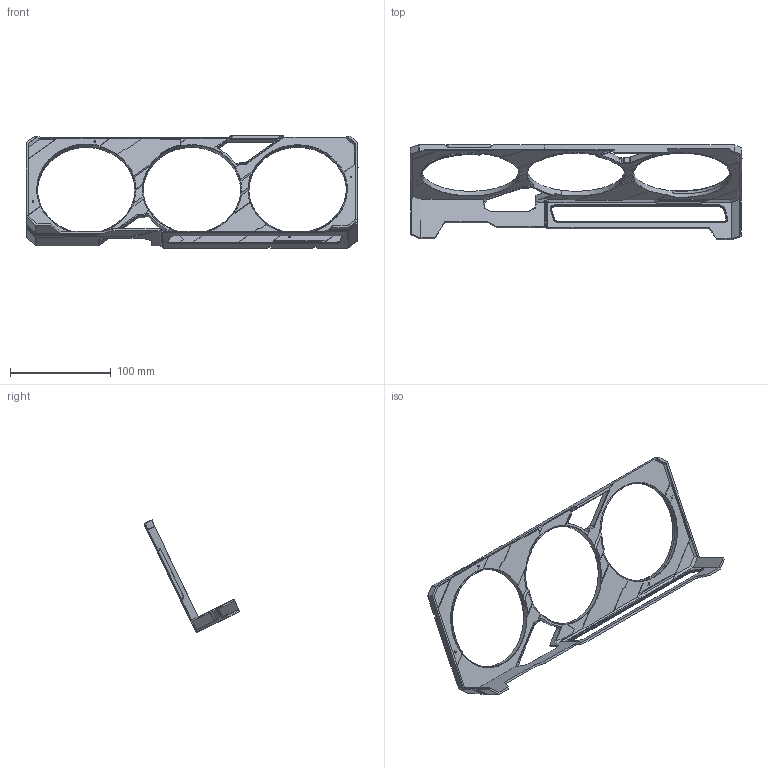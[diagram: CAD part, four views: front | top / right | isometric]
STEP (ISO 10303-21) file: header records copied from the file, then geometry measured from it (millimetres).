
FILE_DESCRIPTION((''),'2;1');
FILE_NAME('20221027_MAKER_FLAT_ALL_ASM','2022-10-27T11:17:23',('Kate'),(''),'CREO PARAMETRIC BY PTC INC, 2020281','CREO PARAMETRIC BY PTC INC, 2020281','');
FILE_SCHEMA(('AUTOMOTIVE_DESIGN { 1 0 10303 214 1 1 1 1 }'));
Length unit declared in the file: millimetre
Products named in the file (9): C02_183; 0000-D325-3_8HP_ASM_1_ASM_120_ASM; 20221027_MAKER_FLAT_01_ASM; C02_183_1; 0000-D325-3_8HP_ASM_1_ASM_120_1_ASM; 20221027_MAKER_FLAT_02_ASM; 20221027_MAKER_SMALLCOVER_01; 20221027_MAKER_SMALLCOVER_02; 20221027_MAKER_FLAT_ALL_ASM
Assembly tree (8 placements, depth 4):
  20221027_MAKER_FLAT_ALL_ASM
    20221027_MAKER_FLAT_01_ASM
      0000-D325-3_8HP_ASM_1_ASM_120_ASM
        C02_183
    20221027_MAKER_FLAT_02_ASM
      0000-D325-3_8HP_ASM_1_ASM_120_1_ASM
        C02_183_1
    20221027_MAKER_SMALLCOVER_01
    20221027_MAKER_SMALLCOVER_02
Bounding box: 330 x 94.93 x 111.6 mm (x, y, z)
Volume: 87284.1 mm3; surface area: 70006.7 mm2
Topology: 4 solids, 4 shells, 518 faces, 1550 edges, 1036 vertices
Faces by surface type: plane 302, cylinder 114, cone 42, torus 34, extrusion 13, bspline 7, revolution 6
Entity records: 19409 total; most frequent: CARTESIAN_POINT 4841, ORIENTED_EDGE 3100, DIRECTION 2772, EDGE_CURVE 1550, VERTEX_POINT 1036, VECTOR 922, AXIS2_PLACEMENT_3D 922, LINE 909
